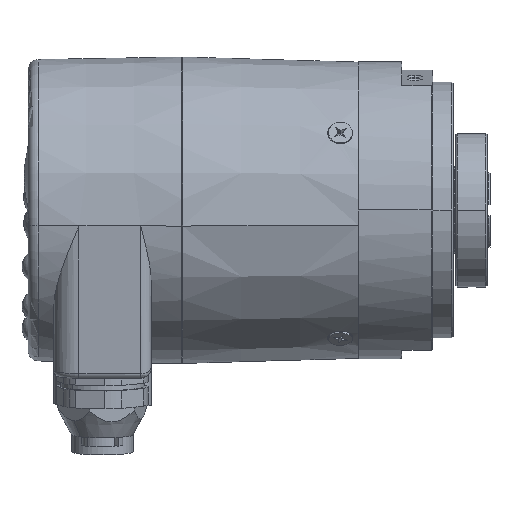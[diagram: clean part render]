
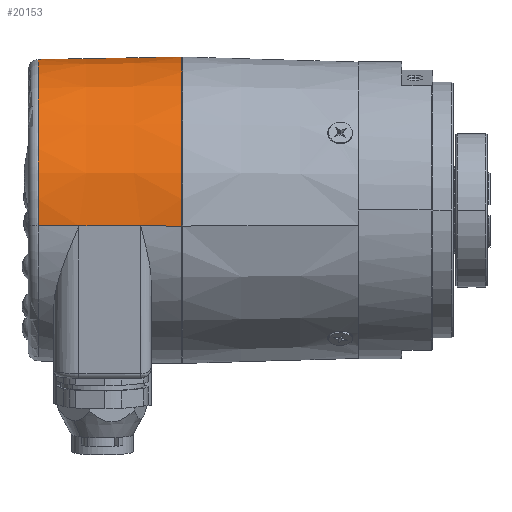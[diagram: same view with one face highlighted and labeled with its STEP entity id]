
A CAD part, top view. The second image highlights one B-rep face of the part: STEP entity #20153.
In plain terms, the highlighted conical face has half-angle 1 degrees and reference radius 30 mm.
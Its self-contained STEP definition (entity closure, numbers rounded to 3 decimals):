
#5580 = CONICAL_SURFACE ( 'NONE', #5632, 30., 0.017 ) ;
#5581 = CARTESIAN_POINT ( 'NONE',  ( -26.295, 0.928, -0.332 ) ) ;
#5596 = FACE_OUTER_BOUND ( 'NONE', #20154, .T. ) ;
#5605 = CARTESIAN_POINT ( 'NONE',  ( -26.295, -2.208, 29.504 ) ) ;
#5610 = DIRECTION ( 'NONE',  ( 1., -0.002, 0.017 ) ) ;
#5611 = VECTOR ( 'NONE', #5610, 1000. ) ;
#5612 = CARTESIAN_POINT ( 'NONE',  ( -26.295, -2.208, 29.504 ) ) ;
#5613 = LINE ( 'NONE', #5612, #5611 ) ;
#5614 = CARTESIAN_POINT ( 'NONE',  ( -34.33, -2.194, 29.365 ) ) ;
#5615 = DIRECTION ( 'NONE',  ( 1., -0.002, 0.017 ) ) ;
#5616 = VECTOR ( 'NONE', #5615, 1000. ) ;
#5617 = CARTESIAN_POINT ( 'NONE',  ( -26.819, -2.207, 29.495 ) ) ;
#5618 = LINE ( 'NONE', #5617, #5616 ) ;
#5619 = CARTESIAN_POINT ( 'NONE',  ( -46.383, -2.172, 29.155 ) ) ;
#5620 = DIRECTION ( 'NONE',  ( 1., -0.002, 0.017 ) ) ;
#5621 = VECTOR ( 'NONE', #5620, 1000. ) ;
#5622 = CARTESIAN_POINT ( 'NONE',  ( -26.295, -2.208, 29.504 ) ) ;
#5623 = LINE ( 'NONE', #5622, #5621 ) ;
#5624 = CARTESIAN_POINT ( 'NONE',  ( -54.33, -2.157, 29.017 ) ) ;
#5625 = CARTESIAN_POINT ( 'NONE',  ( -54.33, 4.012, -29.681 ) ) ;
#5626 = DIRECTION ( 'NONE',  ( 0., -0.105, 0.995 ) ) ;
#5627 = DIRECTION ( 'NONE',  ( 1., 0., 0. ) ) ;
#5628 = AXIS2_PLACEMENT_3D ( 'NONE', #5633, #5627, #5626 ) ;
#5629 = CIRCLE ( 'NONE', #5628, 29.511 ) ;
#5630 = DIRECTION ( 'NONE',  ( 0., 0.105, -0.995 ) ) ;
#5631 = DIRECTION ( 'NONE',  ( 1., 0., 0. ) ) ;
#5632 = AXIS2_PLACEMENT_3D ( 'NONE', #5581, #5631, #5630 ) ;
#5633 = CARTESIAN_POINT ( 'NONE',  ( -54.33, 0.928, -0.332 ) ) ;
#5973 = CARTESIAN_POINT ( 'NONE',  ( -26.295, 4.064, -30.167 ) ) ;
#5974 = LINE ( 'NONE', #5973, #6028 ) ;
#5975 = CARTESIAN_POINT ( 'NONE',  ( -34.33, 4.049, -30.028 ) ) ;
#5976 = DIRECTION ( 'NONE',  ( 1., 0.002, -0.017 ) ) ;
#5977 = VECTOR ( 'NONE', #5976, 1000. ) ;
#5978 = CARTESIAN_POINT ( 'NONE',  ( -26.295, 4.064, -30.167 ) ) ;
#5979 = LINE ( 'NONE', #5978, #5977 ) ;
#5994 = DIRECTION ( 'NONE',  ( 1., 0.002, -0.017 ) ) ;
#5995 = VECTOR ( 'NONE', #5994, 1000. ) ;
#5996 = CARTESIAN_POINT ( 'NONE',  ( -26.819, 4.063, -30.158 ) ) ;
#6000 = LINE ( 'NONE', #5996, #5995 ) ;
#6020 = CARTESIAN_POINT ( 'NONE',  ( -26.295, 4.064, -30.167 ) ) ;
#6021 = DIRECTION ( 'NONE',  ( 0., 0.105, -0.995 ) ) ;
#6022 = DIRECTION ( 'NONE',  ( 1., 0., 0. ) ) ;
#6023 = CARTESIAN_POINT ( 'NONE',  ( -26.295, 0.928, -0.332 ) ) ;
#6024 = AXIS2_PLACEMENT_3D ( 'NONE', #6023, #6022, #6021 ) ;
#6025 = CIRCLE ( 'NONE', #6024, 30. ) ;
#6027 = DIRECTION ( 'NONE',  ( 1., 0.002, -0.017 ) ) ;
#6028 = VECTOR ( 'NONE', #6027, 1000. ) ;
#6115 = CARTESIAN_POINT ( 'NONE',  ( -46.383, 4.027, -29.819 ) ) ;
#20139 = ORIENTED_EDGE ( 'NONE', *, *, #20260, .F. ) ;
#20153 = ADVANCED_FACE ( 'NONE', ( #5596 ), #5580, .T. ) ;
#20154 = EDGE_LOOP ( 'NONE', ( #20155, #20159, #20162, #20165, #20139, #20245, #20282, #20256 ) ) ;
#20155 = ORIENTED_EDGE ( 'NONE', *, *, #20156, .T. ) ;
#20156 = EDGE_CURVE ( 'NONE', #20157, #20158, #5629, .T. ) ;
#20157 = VERTEX_POINT ( 'NONE', #5625 ) ;
#20158 = VERTEX_POINT ( 'NONE', #5624 ) ;
#20159 = ORIENTED_EDGE ( 'NONE', *, *, #20160, .T. ) ;
#20160 = EDGE_CURVE ( 'NONE', #20158, #20161, #5623, .T. ) ;
#20161 = VERTEX_POINT ( 'NONE', #5619 ) ;
#20162 = ORIENTED_EDGE ( 'NONE', *, *, #20163, .T. ) ;
#20163 = EDGE_CURVE ( 'NONE', #20161, #20164, #5618, .T. ) ;
#20164 = VERTEX_POINT ( 'NONE', #5614 ) ;
#20165 = ORIENTED_EDGE ( 'NONE', *, *, #20166, .T. ) ;
#20166 = EDGE_CURVE ( 'NONE', #20164, #20171, #5613, .T. ) ;
#20171 = VERTEX_POINT ( 'NONE', #5605 ) ;
#20245 = ORIENTED_EDGE ( 'NONE', *, *, #20254, .F. ) ;
#20246 = EDGE_CURVE ( 'NONE', #20283, #20255, #6000, .T. ) ;
#20254 = EDGE_CURVE ( 'NONE', #20255, #20261, #5979, .T. ) ;
#20255 = VERTEX_POINT ( 'NONE', #5975 ) ;
#20256 = ORIENTED_EDGE ( 'NONE', *, *, #20257, .F. ) ;
#20257 = EDGE_CURVE ( 'NONE', #20157, #20283, #5974, .T. ) ;
#20260 = EDGE_CURVE ( 'NONE', #20261, #20171, #6025, .T. ) ;
#20261 = VERTEX_POINT ( 'NONE', #6020 ) ;
#20282 = ORIENTED_EDGE ( 'NONE', *, *, #20246, .F. ) ;
#20283 = VERTEX_POINT ( 'NONE', #6115 ) ;
